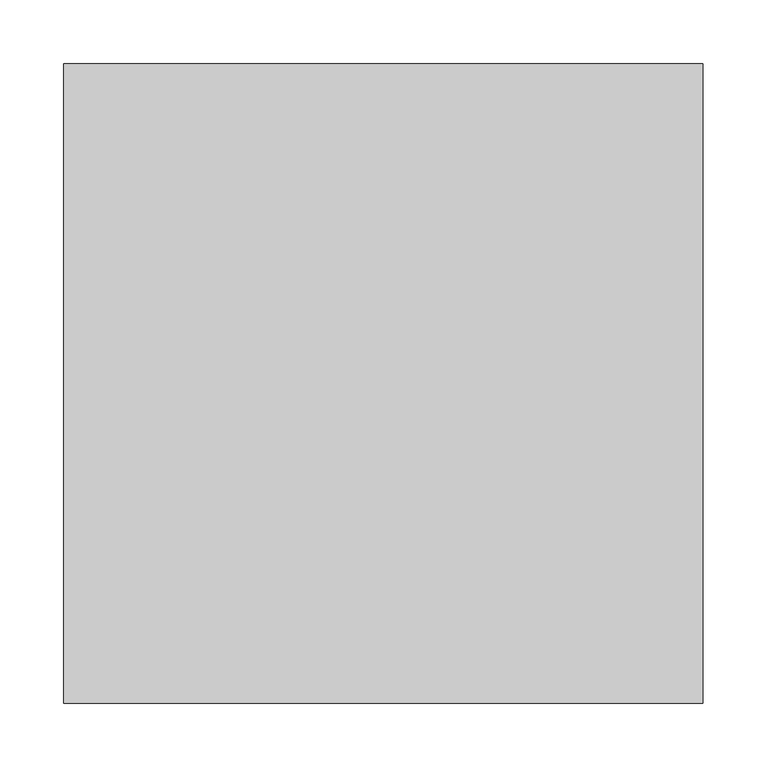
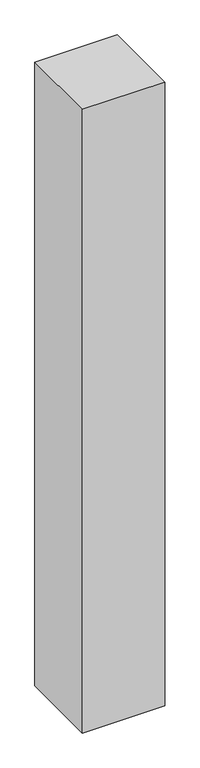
"""IFC4 building model written with IfcOpenShell, lengths in millimetres: column geometry, Семейство5 : Семейство5."""

from ifc_helpers import new_model, si_unit, origin, origin_with_axes, place, context, project, spatial, polyline, outline, extrude, source, transform, mapped, element, save


def column_b00e1716(model_context):
    return source(origin(), model_context, "Body", "SweptSolid", [
        extrude(outline(polyline([(250.0, 250.0), (250.0, -250.0), (-250.0, -250.0), (-250.0, 250.0), (250.0, 250.0)])), origin_with_axes(), (0.0, 0.0, 1.0), 4000.0),
    ])


if __name__ == "__main__":
    model = new_model("IFC4")
    model_context = context("Model", 3, world=origin())
    ifc_project = project(units=[si_unit("LENGTHUNIT", "METRE", prefix="MILLI")], contexts=[model_context])
    site = spatial("IfcSite", under=ifc_project)
    building = spatial("IfcBuilding", under=site)
    placement = place(None, origin())
    column_shape = column_b00e1716(model_context)
    element("IfcColumn", 1, ObjectType="Семейство5 : Семейство5", at=placement, inside=building, context=model_context, shape_type="MappedRepresentation", body=[
        mapped(column_shape, transform((0.0, 0.0, 0.0), x_axis=(1.0, 0.0, 0.0), y_axis=(0.0, 1.0, 0.0), z_axis=(0.0, 0.0, 1.0))),
    ])
    save(model, "model.ifc")
